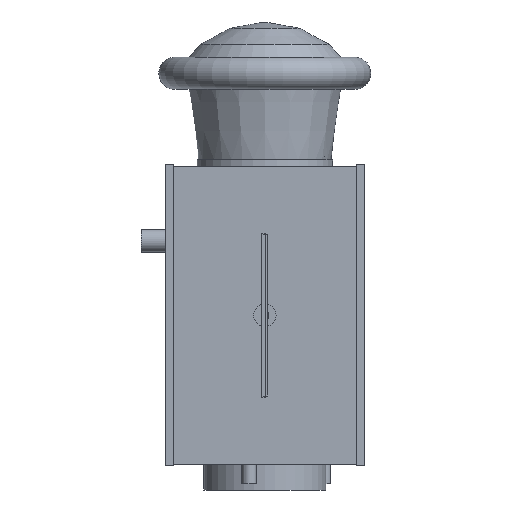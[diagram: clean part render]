
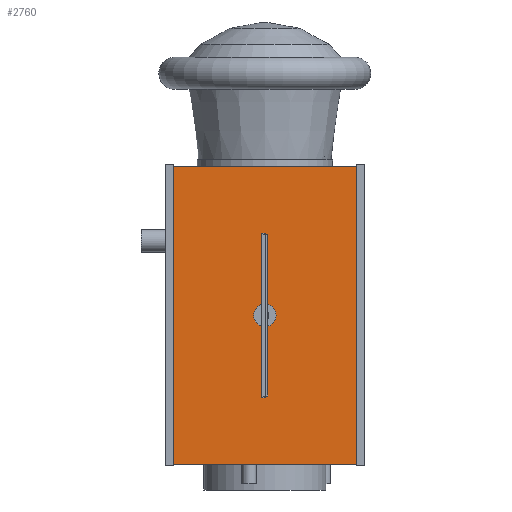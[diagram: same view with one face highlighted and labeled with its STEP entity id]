
A CAD part, left-side view. The second image highlights one B-rep face of the part: STEP entity #2760.
In plain terms, the highlighted planar face has unit normal (-1, 0, 0).
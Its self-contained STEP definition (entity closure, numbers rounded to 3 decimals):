
#2760 = ADVANCED_FACE('',(#2761),#2775,.F.);
#2761 = FACE_BOUND('',#2762,.F.);
#2762 = EDGE_LOOP('',(#2763,#2798,#2826,#2854));
#2763 = ORIENTED_EDGE('',*,*,#2764,.F.);
#2764 = EDGE_CURVE('',#2765,#2767,#2769,.T.);
#2765 = VERTEX_POINT('',#2766);
#2766 = CARTESIAN_POINT('',(-0.296,-0.296,-0.929));
#2767 = VERTEX_POINT('',#2768);
#2768 = CARTESIAN_POINT('',(-0.296,-0.296,0.));
#2769 = SURFACE_CURVE('',#2770,(#2774,#2786),.PCURVE_S1.);
#2770 = LINE('',#2771,#2772);
#2771 = CARTESIAN_POINT('',(-0.296,-0.296,-0.929));
#2772 = VECTOR('',#2773,1.);
#2773 = DIRECTION('',(0.,0.,1.));
#2774 = PCURVE('',#2775,#2780);
#2775 = PLANE('',#2776);
#2776 = AXIS2_PLACEMENT_3D('',#2777,#2778,#2779);
#2777 = CARTESIAN_POINT('',(-0.296,-0.296,-0.929));
#2778 = DIRECTION('',(1.,0.,0.));
#2779 = DIRECTION('',(0.,0.,1.));
#2780 = DEFINITIONAL_REPRESENTATION('',(#2781),#2785);
#2781 = LINE('',#2782,#2783);
#2782 = CARTESIAN_POINT('',(0.,0.));
#2783 = VECTOR('',#2784,1.);
#2784 = DIRECTION('',(1.,0.));
#2785 = ( GEOMETRIC_REPRESENTATION_CONTEXT(2) 
PARAMETRIC_REPRESENTATION_CONTEXT() REPRESENTATION_CONTEXT('2D SPACE',''
  ) );
#2786 = PCURVE('',#2787,#2792);
#2787 = PLANE('',#2788);
#2788 = AXIS2_PLACEMENT_3D('',#2789,#2790,#2791);
#2789 = CARTESIAN_POINT('',(-0.296,-0.296,-0.929));
#2790 = DIRECTION('',(0.,1.,0.));
#2791 = DIRECTION('',(0.,0.,1.));
#2792 = DEFINITIONAL_REPRESENTATION('',(#2793),#2797);
#2793 = LINE('',#2794,#2795);
#2794 = CARTESIAN_POINT('',(0.,0.));
#2795 = VECTOR('',#2796,1.);
#2796 = DIRECTION('',(1.,0.));
#2797 = ( GEOMETRIC_REPRESENTATION_CONTEXT(2) 
PARAMETRIC_REPRESENTATION_CONTEXT() REPRESENTATION_CONTEXT('2D SPACE',''
  ) );
#2798 = ORIENTED_EDGE('',*,*,#2799,.T.);
#2799 = EDGE_CURVE('',#2765,#2800,#2802,.T.);
#2800 = VERTEX_POINT('',#2801);
#2801 = CARTESIAN_POINT('',(-0.296,0.296,-0.929));
#2802 = SURFACE_CURVE('',#2803,(#2807,#2814),.PCURVE_S1.);
#2803 = LINE('',#2804,#2805);
#2804 = CARTESIAN_POINT('',(-0.296,-0.296,-0.929));
#2805 = VECTOR('',#2806,1.);
#2806 = DIRECTION('',(0.,1.,0.));
#2807 = PCURVE('',#2775,#2808);
#2808 = DEFINITIONAL_REPRESENTATION('',(#2809),#2813);
#2809 = LINE('',#2810,#2811);
#2810 = CARTESIAN_POINT('',(0.,0.));
#2811 = VECTOR('',#2812,1.);
#2812 = DIRECTION('',(0.,-1.));
#2813 = ( GEOMETRIC_REPRESENTATION_CONTEXT(2) 
PARAMETRIC_REPRESENTATION_CONTEXT() REPRESENTATION_CONTEXT('2D SPACE',''
  ) );
#2814 = PCURVE('',#2815,#2820);
#2815 = PLANE('',#2816);
#2816 = AXIS2_PLACEMENT_3D('',#2817,#2818,#2819);
#2817 = CARTESIAN_POINT('',(-0.296,-0.296,-0.929));
#2818 = DIRECTION('',(0.,0.,1.));
#2819 = DIRECTION('',(1.,0.,0.));
#2820 = DEFINITIONAL_REPRESENTATION('',(#2821),#2825);
#2821 = LINE('',#2822,#2823);
#2822 = CARTESIAN_POINT('',(0.,0.));
#2823 = VECTOR('',#2824,1.);
#2824 = DIRECTION('',(0.,1.));
#2825 = ( GEOMETRIC_REPRESENTATION_CONTEXT(2) 
PARAMETRIC_REPRESENTATION_CONTEXT() REPRESENTATION_CONTEXT('2D SPACE',''
  ) );
#2826 = ORIENTED_EDGE('',*,*,#2827,.T.);
#2827 = EDGE_CURVE('',#2800,#2828,#2830,.T.);
#2828 = VERTEX_POINT('',#2829);
#2829 = CARTESIAN_POINT('',(-0.296,0.296,0.));
#2830 = SURFACE_CURVE('',#2831,(#2835,#2842),.PCURVE_S1.);
#2831 = LINE('',#2832,#2833);
#2832 = CARTESIAN_POINT('',(-0.296,0.296,-0.929));
#2833 = VECTOR('',#2834,1.);
#2834 = DIRECTION('',(0.,0.,1.));
#2835 = PCURVE('',#2775,#2836);
#2836 = DEFINITIONAL_REPRESENTATION('',(#2837),#2841);
#2837 = LINE('',#2838,#2839);
#2838 = CARTESIAN_POINT('',(0.,-0.591));
#2839 = VECTOR('',#2840,1.);
#2840 = DIRECTION('',(1.,0.));
#2841 = ( GEOMETRIC_REPRESENTATION_CONTEXT(2) 
PARAMETRIC_REPRESENTATION_CONTEXT() REPRESENTATION_CONTEXT('2D SPACE',''
  ) );
#2842 = PCURVE('',#2843,#2848);
#2843 = PLANE('',#2844);
#2844 = AXIS2_PLACEMENT_3D('',#2845,#2846,#2847);
#2845 = CARTESIAN_POINT('',(-0.296,0.296,-0.929));
#2846 = DIRECTION('',(0.,1.,0.));
#2847 = DIRECTION('',(0.,0.,1.));
#2848 = DEFINITIONAL_REPRESENTATION('',(#2849),#2853);
#2849 = LINE('',#2850,#2851);
#2850 = CARTESIAN_POINT('',(0.,0.));
#2851 = VECTOR('',#2852,1.);
#2852 = DIRECTION('',(1.,0.));
#2853 = ( GEOMETRIC_REPRESENTATION_CONTEXT(2) 
PARAMETRIC_REPRESENTATION_CONTEXT() REPRESENTATION_CONTEXT('2D SPACE',''
  ) );
#2854 = ORIENTED_EDGE('',*,*,#2855,.F.);
#2855 = EDGE_CURVE('',#2767,#2828,#2856,.T.);
#2856 = SURFACE_CURVE('',#2857,(#2861,#2868),.PCURVE_S1.);
#2857 = LINE('',#2858,#2859);
#2858 = CARTESIAN_POINT('',(-0.296,-0.296,0.));
#2859 = VECTOR('',#2860,1.);
#2860 = DIRECTION('',(0.,1.,0.));
#2861 = PCURVE('',#2775,#2862);
#2862 = DEFINITIONAL_REPRESENTATION('',(#2863),#2867);
#2863 = LINE('',#2864,#2865);
#2864 = CARTESIAN_POINT('',(0.929,0.));
#2865 = VECTOR('',#2866,1.);
#2866 = DIRECTION('',(0.,-1.));
#2867 = ( GEOMETRIC_REPRESENTATION_CONTEXT(2) 
PARAMETRIC_REPRESENTATION_CONTEXT() REPRESENTATION_CONTEXT('2D SPACE',''
  ) );
#2868 = PCURVE('',#2869,#2874);
#2869 = PLANE('',#2870);
#2870 = AXIS2_PLACEMENT_3D('',#2871,#2872,#2873);
#2871 = CARTESIAN_POINT('',(-0.296,-0.296,0.));
#2872 = DIRECTION('',(0.,0.,1.));
#2873 = DIRECTION('',(1.,0.,0.));
#2874 = DEFINITIONAL_REPRESENTATION('',(#2875),#2879);
#2875 = LINE('',#2876,#2877);
#2876 = CARTESIAN_POINT('',(0.,0.));
#2877 = VECTOR('',#2878,1.);
#2878 = DIRECTION('',(0.,1.));
#2879 = ( GEOMETRIC_REPRESENTATION_CONTEXT(2) 
PARAMETRIC_REPRESENTATION_CONTEXT() REPRESENTATION_CONTEXT('2D SPACE',''
  ) );
